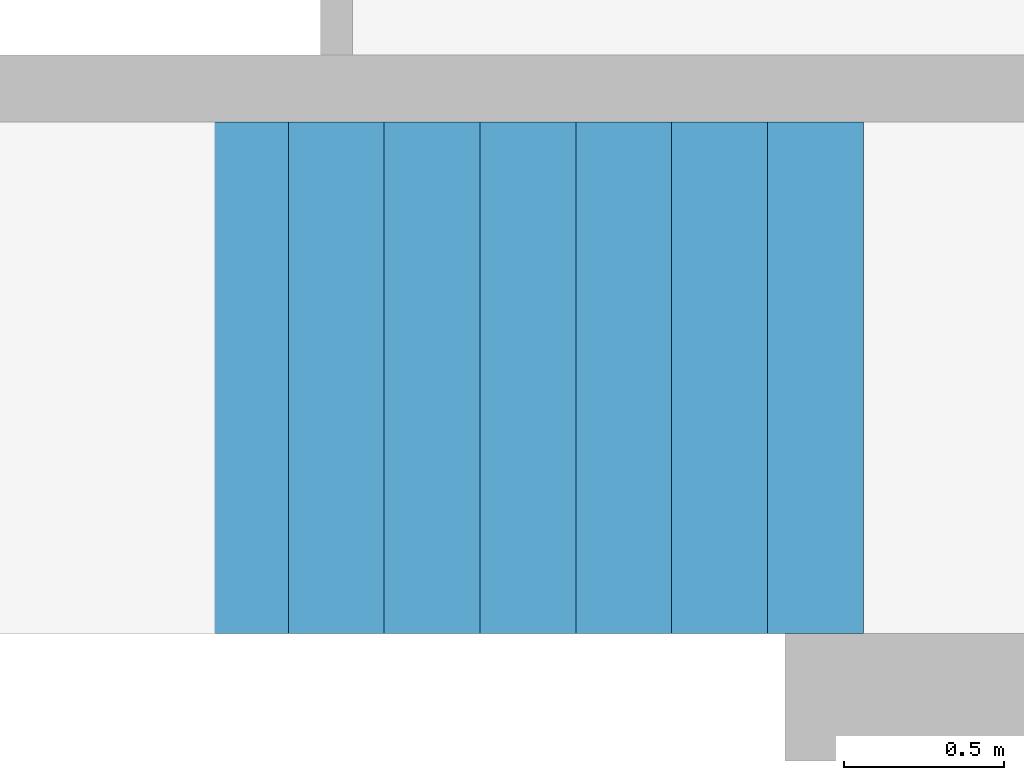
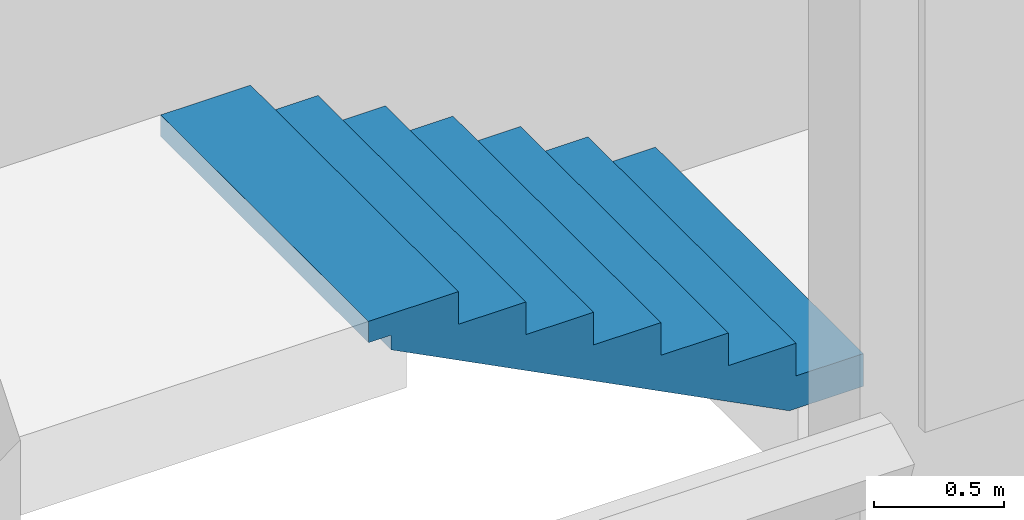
# One storey, part 8 of 14: 1 stair flight, 1 element without a shape of its own.
"""IFC2X3 building model written with IfcOpenShell, lengths in millimetres."""

from ifc_helpers import new_model, entity, si_unit, converted_unit, derived_unit, direction, frame, origin, place, context, subcontext, project, spatial, faceted_brep, element, aggregate, save


model = new_model("IFC2X3")

# Units and contexts
model_context = context("Model", 3, precision=0.01, world=origin(), true_north=direction((6.12303176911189e-17, 1.0)))
body_context = subcontext(model_context, "Body", "Model", "MODEL_VIEW")
ifc_project = project(units=[si_unit("LENGTHUNIT", "METRE", prefix="MILLI"), si_unit("AREAUNIT", "SQUARE_METRE"), si_unit("VOLUMEUNIT", "CUBIC_METRE"), converted_unit("PLANEANGLEUNIT", "DEGREE", entity("IfcRatioMeasure", 0.0174532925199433), si_unit("PLANEANGLEUNIT", "RADIAN"), dimensions=[0, 0, 0, 0, 0, 0, 0]), si_unit("MASSUNIT", "GRAM", prefix="KILO"), derived_unit("MASSDENSITYUNIT", [(si_unit("MASSUNIT", "GRAM", prefix="KILO"), 1), (si_unit("LENGTHUNIT", "METRE"), -3)]), si_unit("TIMEUNIT", "SECOND"), si_unit("FREQUENCYUNIT", "HERTZ"), si_unit("THERMODYNAMICTEMPERATUREUNIT", "DEGREE_CELSIUS"), derived_unit("THERMALTRANSMITTANCEUNIT", [(si_unit("MASSUNIT", "GRAM", prefix="KILO"), 1), (si_unit("THERMODYNAMICTEMPERATUREUNIT", "KELVIN"), -1), (si_unit("TIMEUNIT", "SECOND"), -3)]), derived_unit("VOLUMETRICFLOWRATEUNIT", [(si_unit("LENGTHUNIT", "METRE"), 3), (si_unit("TIMEUNIT", "SECOND"), -1)]), si_unit("ELECTRICCURRENTUNIT", "AMPERE"), si_unit("ELECTRICVOLTAGEUNIT", "VOLT"), si_unit("POWERUNIT", "WATT"), si_unit("FORCEUNIT", "NEWTON", prefix="KILO"), si_unit("ILLUMINANCEUNIT", "LUX"), si_unit("LUMINOUSFLUXUNIT", "LUMEN"), si_unit("LUMINOUSINTENSITYUNIT", "CANDELA"), derived_unit("USERDEFINED", [(si_unit("MASSUNIT", "GRAM", prefix="KILO"), -1), (si_unit("LENGTHUNIT", "METRE"), -2), (si_unit("TIMEUNIT", "SECOND"), 3), (si_unit("LUMINOUSFLUXUNIT", "LUMEN"), 1)]), derived_unit("LINEARVELOCITYUNIT", [(si_unit("LENGTHUNIT", "METRE"), 1), (si_unit("TIMEUNIT", "SECOND"), -1)]), si_unit("PRESSUREUNIT", "PASCAL"), derived_unit("USERDEFINED", [(si_unit("LENGTHUNIT", "METRE"), -2), (si_unit("MASSUNIT", "GRAM", prefix="KILO"), 1), (si_unit("TIMEUNIT", "SECOND"), -2)])], contexts=[model_context])

# Site, building, storey
site_placement = place(None, frame((-151.875543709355, 2715.0, 0.0)))
site = spatial("IfcSite", under=ifc_project, at=site_placement, Name="Surface", CompositionType="ELEMENT")
building_placement = place(site_placement, origin())
building = spatial("IfcBuilding", under=site, at=building_placement, CompositionType="ELEMENT")
storey_placement = place(building_placement, frame((0.0, 0.0, 3875.0)))
storey = spatial("IfcBuildingStorey", under=building, at=storey_placement, Name="uus 2 korrus", CompositionType="ELEMENT", Elevation=3875.00000000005)

# Stair, stair flight
stair_placement = place(storey_placement, origin())
stair = element("IfcStair", 1, at=stair_placement, inside=storey, Name="Precast Stair:Stair", ObjectType="Precast Stair:Uus betoonist sisestrepp 3", ShapeType="NOTDEFINED")
stair_flight_placement = place(stair_placement, frame((33681.6162681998, 13210.0, 0.0)))
stair_flight = element("IfcStairFlight", 2, at=stair_flight_placement, Name="Precast Stair:Stair:925587 Run 1", ObjectType="Precast Stair:Uus betoonist sisestrepp 3", NumberOfRiser=7, NumberOfTreads=7, RiserHeight=0.503843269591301, TreadLength=0.984251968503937, context=body_context, shape_type="Brep", body=[
    faceted_brep([(1900.0, 0.0, 153.571428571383), (2200.0, 0.0, 153.571428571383), (2200.0, 1600.0, 153.571428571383), (1900.0, 1600.0, 153.571428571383), (1900.0, 0.0, 0.0), (2200.0, 0.0, 0.0), (2200.0, 1600.0, 0.0), (1900.0, 1600.0, 0.0), (1600.0, 0.0, 307.142857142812), (1900.0, 0.0, 307.142857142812), (1900.0, 1600.0, 307.142857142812), (1600.0, 1600.0, 307.142857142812), (1600.0, 0.0, 138.63159366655), (1870.81520623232, 0.0, 0.0), (1870.81520623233, 1600.0, 0.0), (1600.0, 1600.0, 138.631593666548), (1300.0, 0.0, 460.71428571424), (1600.0, 0.0, 460.71428571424), (1600.0, 1600.0, 460.71428571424), (1300.0, 1600.0, 460.71428571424), (1300.0, 0.0, 292.203022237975), (1300.0, 1600.0, 292.203022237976), (1000.0, 0.0, 614.285714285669), (1300.0, 0.0, 614.285714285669), (1300.0, 1600.0, 614.285714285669), (1000.0, 1600.0, 614.285714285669), (1000.0, 0.0, 445.774450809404), (1000.0, 1600.0, 445.774450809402), (700.0, 0.0, 599.345879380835), (400.0, 0.0, 752.917307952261), (100.0, 0.0, 906.488736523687), (100.0, 1600.0, 906.488736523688), (400.0, 1600.0, 752.917307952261), (700.0, 1600.0, 599.345879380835), (0.0, 1600.0, 975.0), (100.0, 1600.0, 975.0), (100.0, 0.0, 975.0), (0.0, 0.0, 975.0), (0.0, 0.0, 1075.0), (0.0, 1600.0, 1075.0), (700.0, 0.0, 767.857142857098), (1000.0, 0.0, 767.857142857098), (1000.0, 1600.0, 767.857142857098), (700.0, 1600.0, 767.857142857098), (400.0, 0.0, 921.428571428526), (700.0, 0.0, 921.428571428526), (700.0, 1600.0, 921.428571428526), (400.0, 1600.0, 921.428571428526), (400.0, 0.0, 1075.0), (400.0, 1600.0, 1075.0)], [[[0, 1, 2, 3]], [[1, 0, 4, 5]], [[2, 1, 5, 6]], [[3, 2, 6, 7]], [[8, 9, 10, 11]], [[4, 0, 9, 8, 12, 13]], [[0, 3, 10, 9]], [[3, 7, 14, 15, 11, 10]], [[16, 17, 18, 19]], [[17, 16, 20, 12, 8]], [[8, 11, 18, 17]], [[19, 18, 11, 15, 21]], [[22, 23, 24, 25]], [[23, 22, 26, 20, 16]], [[16, 19, 24, 23]], [[25, 24, 19, 21, 27]], [[5, 4, 13, 14, 7, 6]], [[14, 13, 12, 20, 26, 28, 29, 30, 31, 32, 33, 27, 21, 15]], [[34, 35, 36, 37]], [[34, 37, 38, 39]], [[40, 41, 42, 43]], [[41, 40, 28, 26, 22]], [[22, 25, 42, 41]], [[43, 42, 25, 27, 33]], [[44, 45, 46, 47]], [[45, 44, 29, 28, 40]], [[40, 43, 46, 45]], [[47, 46, 43, 33, 32]], [[48, 49, 39, 38]], [[48, 38, 37, 36, 30, 29, 44]], [[44, 47, 49, 48]], [[39, 49, 47, 32, 31, 35, 34]], [[31, 30, 36, 35]]]),
])
aggregate(stair, [stair_flight])

save(model, "model.ifc")
